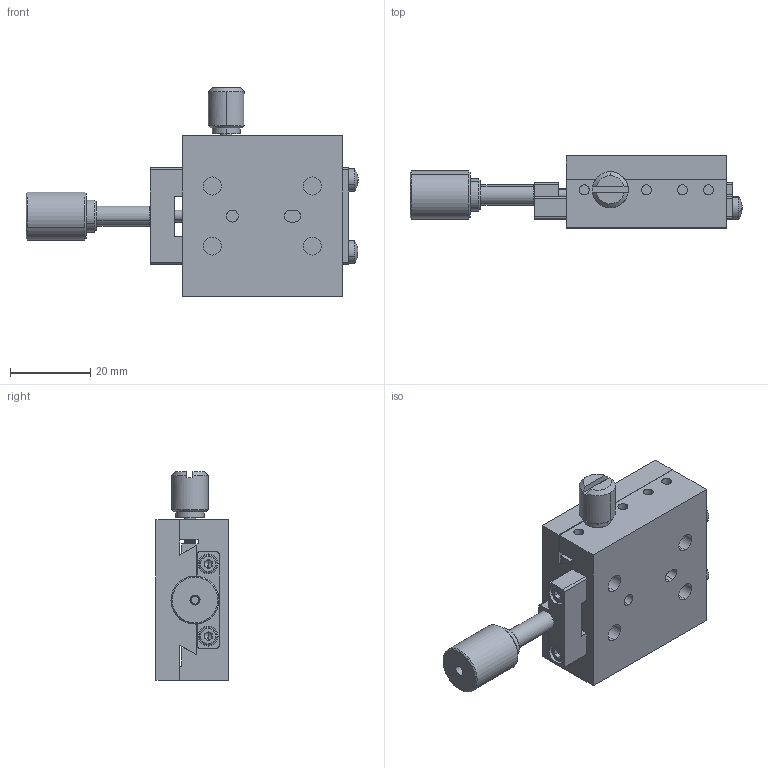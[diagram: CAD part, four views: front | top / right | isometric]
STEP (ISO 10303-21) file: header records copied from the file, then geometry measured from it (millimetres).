
FILE_DESCRIPTION (( 'STEP AP203' ), '1' );
FILE_NAME ('BFS40.STEP', '2024-03-06T02:23:16', ( 'China' ), ( 'Microsoft' ), 'SwSTEP 2.0', 'SolidWorks 2024', '' );
FILE_SCHEMA (( 'CONFIG_CONTROL_DESIGN' ));
Products named in the file (1): BFS40
Bounding box: 82.87 x 18 x 52 mm (x, y, z)
Volume: 29206.9 mm3; surface area: 18256 mm2
Topology: 13 solids, 13 shells, 1043 faces, 2814 edges, 1827 vertices
Faces by surface type: plane 568, cylinder 253, bspline 147, cone 63, torus 8, sphere 4
Entity records: 49290 total; most frequent: CARTESIAN_POINT 24996, ORIENTED_EDGE 5568, DIRECTION 4087, EDGE_CURVE 2784, VERTEX_POINT 1827, VECTOR 1417, LINE 1417, AXIS2_PLACEMENT_3D 1335
